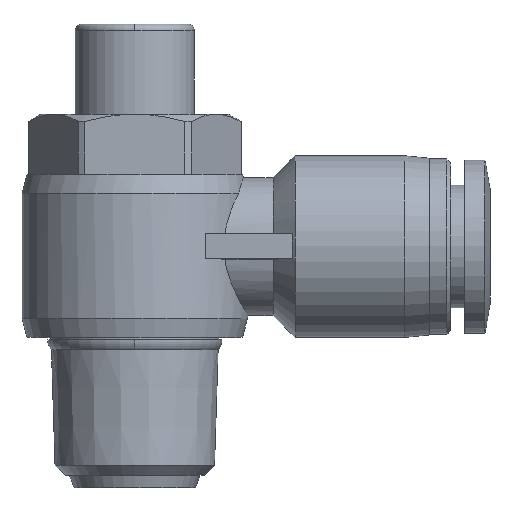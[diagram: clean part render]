
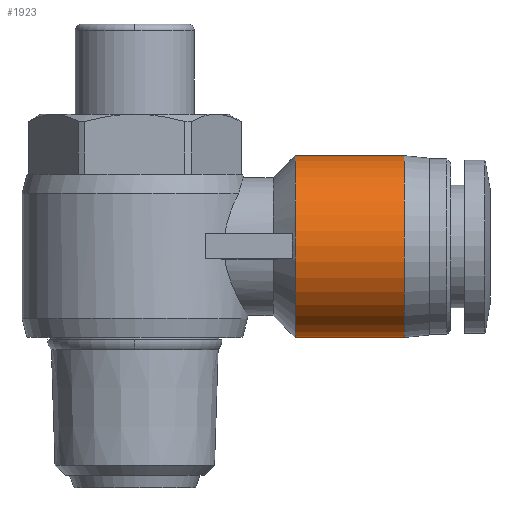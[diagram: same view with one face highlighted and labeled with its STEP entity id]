
A CAD part, top view. The second image highlights one B-rep face of the part: STEP entity #1923.
In plain terms, the highlighted cylindrical face has radius 7.25 mm (diameter 14.5 mm), a partial arc.
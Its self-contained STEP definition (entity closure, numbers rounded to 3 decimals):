
#46 = AXIS2_PLACEMENT_3D ( 'NONE', #3526, #3819, #448 ) ;
#85 = CARTESIAN_POINT ( 'NONE',  ( 21.498, 12., 0. ) ) ;
#173 = VECTOR ( 'NONE', #586, 1000. ) ;
#191 = CARTESIAN_POINT ( 'NONE',  ( 21.498, 19.25, 0. ) ) ;
#336 = CARTESIAN_POINT ( 'NONE',  ( 21.498, 26.5, 0. ) ) ;
#371 = ORIENTED_EDGE ( 'NONE', *, *, #2495, .T. ) ;
#448 = DIRECTION ( 'NONE',  ( 0., -1., 0. ) ) ;
#586 = DIRECTION ( 'NONE',  ( -1., 0., 0. ) ) ;
#748 = EDGE_CURVE ( 'NONE', #1856, #3591, #2490, .T. ) ;
#932 = CYLINDRICAL_SURFACE ( 'NONE', #2620, 7.25 ) ;
#1189 = LINE ( 'NONE', #1528, #1509 ) ;
#1509 = VECTOR ( 'NONE', #2408, 1000. ) ;
#1528 = CARTESIAN_POINT ( 'NONE',  ( 17.148, 12., 0. ) ) ;
#1544 = EDGE_CURVE ( 'NONE', #1626, #3591, #3616, .T. ) ;
#1626 = VERTEX_POINT ( 'NONE', #336 ) ;
#1711 = EDGE_LOOP ( 'NONE', ( #371, #1992, #2359, #2079 ) ) ;
#1856 = VERTEX_POINT ( 'NONE', #2869 ) ;
#1858 = FACE_OUTER_BOUND ( 'NONE', #1711, .T. ) ;
#1923 = ADVANCED_FACE ( 'NONE', ( #1858 ), #932, .T. ) ;
#1952 = VERTEX_POINT ( 'NONE', #85 ) ;
#1965 = DIRECTION ( 'NONE',  ( 0., -1., 0. ) ) ;
#1992 = ORIENTED_EDGE ( 'NONE', *, *, #1544, .T. ) ;
#2079 = ORIENTED_EDGE ( 'NONE', *, *, #2736, .F. ) ;
#2359 = ORIENTED_EDGE ( 'NONE', *, *, #748, .F. ) ;
#2408 = DIRECTION ( 'NONE',  ( -1., 0., 0. ) ) ;
#2490 = CIRCLE ( 'NONE', #46, 7.25 ) ;
#2495 = EDGE_CURVE ( 'NONE', #1952, #1626, #3618, .T. ) ;
#2620 = AXIS2_PLACEMENT_3D ( 'NONE', #3503, #3073, #1965 ) ;
#2663 = CARTESIAN_POINT ( 'NONE',  ( 12.798, 26.5, 0. ) ) ;
#2736 = EDGE_CURVE ( 'NONE', #1952, #1856, #1189, .T. ) ;
#2869 = CARTESIAN_POINT ( 'NONE',  ( 12.798, 12., 0. ) ) ;
#2901 = DIRECTION ( 'NONE',  ( 0., -1., 0. ) ) ;
#2977 = AXIS2_PLACEMENT_3D ( 'NONE', #191, #3563, #2901 ) ;
#3073 = DIRECTION ( 'NONE',  ( -1., 0., 0. ) ) ;
#3345 = CARTESIAN_POINT ( 'NONE',  ( 17.148, 26.5, 0. ) ) ;
#3503 = CARTESIAN_POINT ( 'NONE',  ( 17.148, 19.25, 0. ) ) ;
#3526 = CARTESIAN_POINT ( 'NONE',  ( 12.798, 19.25, 0. ) ) ;
#3563 = DIRECTION ( 'NONE',  ( -1., 0., 0. ) ) ;
#3591 = VERTEX_POINT ( 'NONE', #2663 ) ;
#3616 = LINE ( 'NONE', #3345, #173 ) ;
#3618 = CIRCLE ( 'NONE', #2977, 7.25 ) ;
#3819 = DIRECTION ( 'NONE',  ( -1., 0., 0. ) ) ;
